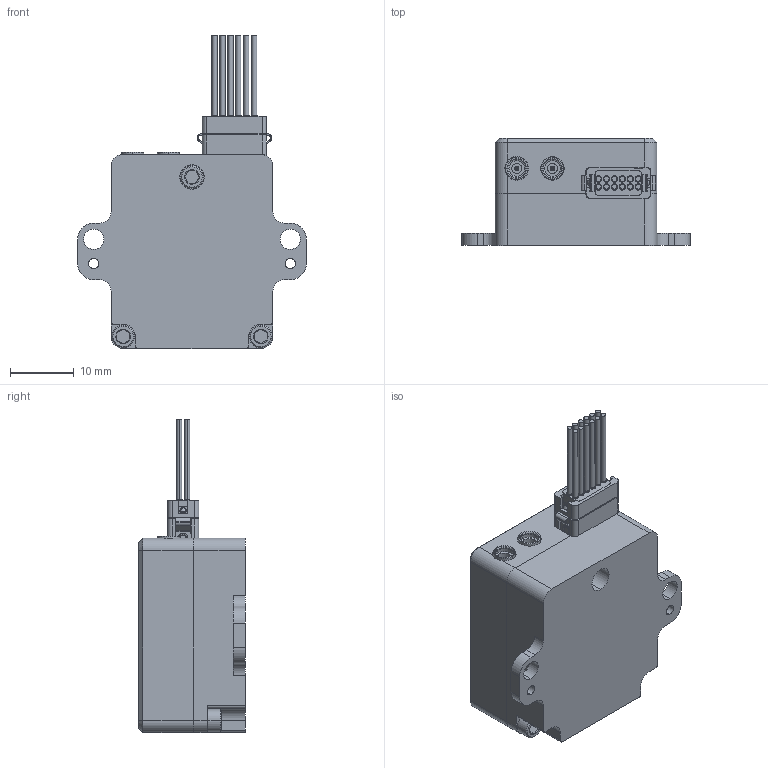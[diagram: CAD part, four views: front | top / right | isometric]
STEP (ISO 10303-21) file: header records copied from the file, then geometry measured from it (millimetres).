
FILE_DESCRIPTION (( 'STEP AP214' ), '1' );
FILE_NAME ('IS-uINS-21 Rugged uINS V2 CAD.STEP', '2021-02-27T23:20:41', ( '' ), ( '' ), 'SwSTEP 2.0', 'SolidWorks 2019', '' );
FILE_SCHEMA (( 'AUTOMOTIVE_DESIGN' ));
Length unit declared in the file: inch
Products named in the file (1): IS-uINS-21 Rugged uINS V2 CAD
Bounding box: 35.92 x 16.76 x 49.13 mm (x, y, z)
Volume: 4739.8 mm3; surface area: 11871.4 mm2
Topology: 55 solids, 55 shells, 4542 faces, 10975 edges, 6604 vertices
Faces by surface type: bspline 1501, plane 1391, cylinder 1045, cone 357, torus 248
Entity records: 243857 total; most frequent: CARTESIAN_POINT 89664, ORIENTED_EDGE 21922, DIRECTION 16703, EDGE_CURVE 10961, VERTEX_POINT 6616, AXIS2_PLACEMENT_3D 6346, EDGE_LOOP 4777, UNCERTAINTY_MEASURE_WITH_UNIT 4599
